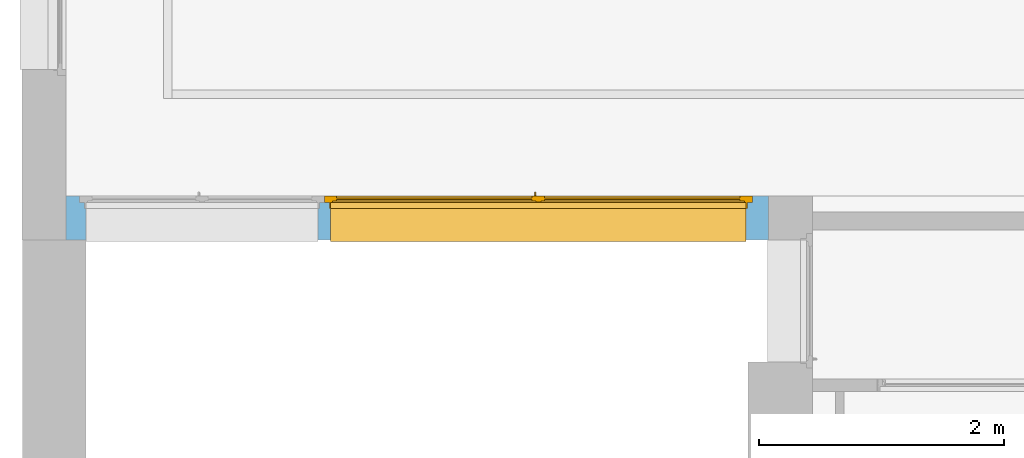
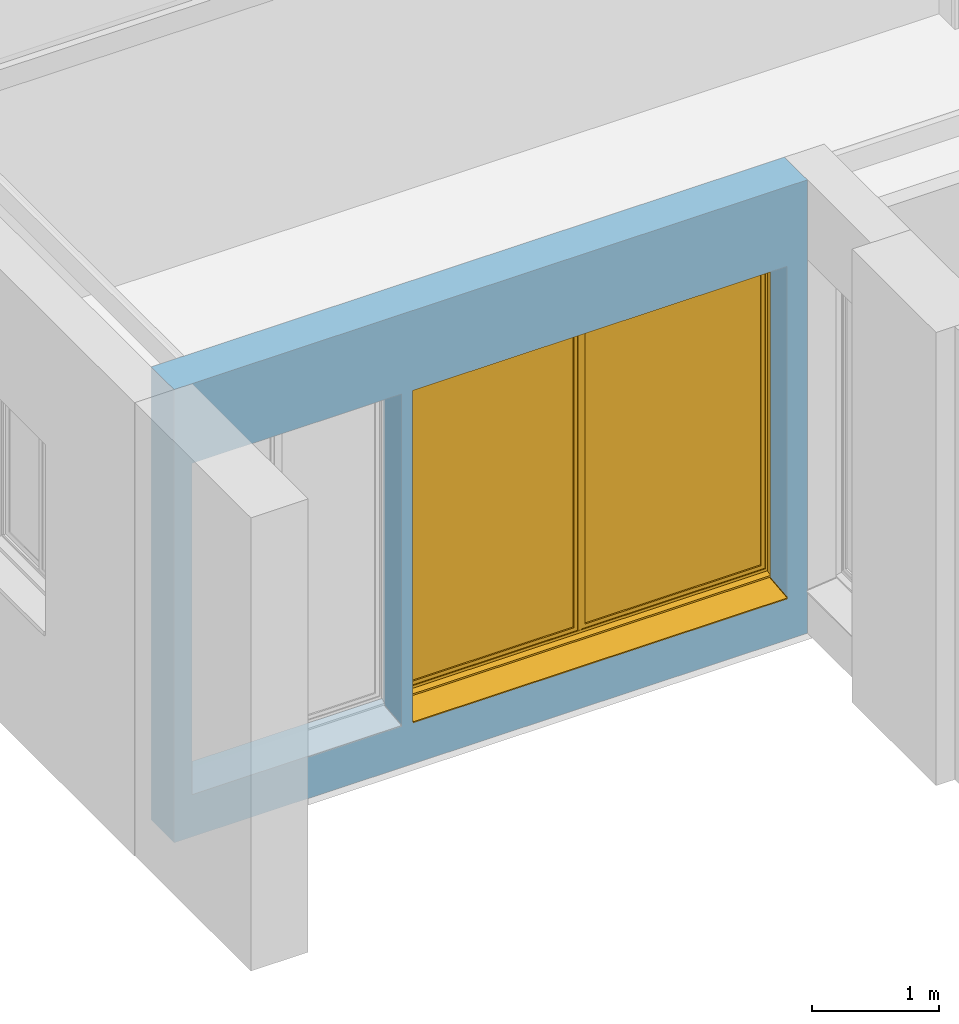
# One storey, part 21 of 32: 1 window, 2 openings, plus 1 element that does not belong to this part.
"""IFC2X3 building model written with IfcOpenShell, lengths in metres."""

import ifcopenshell
import ifcopenshell.guid

model = None  # the IFC model being written
_history = None  # IfcOwnerHistory: only IFC2X3 demands one
_inside = {}  # id of a spatial element -> (the spatial element, [elements in it])
_under = {}  # id of a project, library or spatial element -> (it, [spatial elements below it])
_declared = {}  # id of a project -> (the project, [libraries it declares])
_typed = {}  # id of a type object -> (the type object, [elements of that type])
_made_of = {}  # id of a material, layer set ... -> (it, [elements and type objects made of it])


def new_model(schema):
    """Start an empty IFC model of exactly this schema.

    Asked for "IFC4X3", IfcOpenShell would pick the latest addendum, in which some entities
    have other attributes; the version numbers below select the first issue.
    IFC2X3 requires an IfcOwnerHistory on every rooted entity: one is made here for all.
    """
    global model, _history
    if schema == "IFC4X3":
        model = ifcopenshell.file(schema_version=(4, 3, 0, 0))
    else:
        model = ifcopenshell.file(schema=schema)
    _inside.clear()
    _under.clear()
    _declared.clear()
    _typed.clear()
    _made_of.clear()
    _history = None
    if model.schema == "IFC2X3":
        org = make("IfcOrganization", Name="unknown")
        user = make(
            "IfcPersonAndOrganization",
            ThePerson=make("IfcPerson", FamilyName="unknown"),
            TheOrganization=org,
        )
        app = make(
            "IfcApplication",
            ApplicationDeveloper=org,
            Version="unknown",
            ApplicationFullName="unknown",
            ApplicationIdentifier="unknown",
        )
        _history = make(
            "IfcOwnerHistory",
            OwningUser=user,
            OwningApplication=app,
            ChangeAction="ADDED",
            CreationDate=0,
        )
    return model


def make(cls, **values):
    """One entity of the class cls with the attributes given. An attribute that is None is left unset."""
    return model.create_entity(
        cls, **{name: value for name, value in values.items() if value is not None}
    )


def entity(cls, *values):
    """Any entity or typed value of the class cls, its attributes in the order of the schema. None: left unset."""
    e = model.create_entity(cls)
    for i, value in enumerate(values):
        if value is not None:
            e[i] = value
    return e


def rooted(cls, **values):
    """An entity with a GlobalId (a new one), such as an element, a storey or a relation."""
    return make(cls, GlobalId=ifcopenshell.guid.new(), OwnerHistory=_history, **values)


def si_unit(unit_type, name, prefix=None):
    """IfcSIUnit, for example si_unit("LENGTHUNIT", "METRE", prefix="MILLI")."""
    return make("IfcSIUnit", UnitType=unit_type, Prefix=prefix, Name=name)


def converted_unit(unit_type, name, factor, base, dimensions=None, offset=None):
    """IfcConversionBasedUnit, such as the inch: factor (a typed value) times the base unit."""
    return make(
        "IfcConversionBasedUnit"
        if offset is None
        else "IfcConversionBasedUnitWithOffset",
        ConversionOffset=offset,
        Dimensions=None
        if dimensions is None
        else entity("IfcDimensionalExponents", *dimensions),
        UnitType=unit_type,
        Name=name,
        ConversionFactor=make(
            "IfcMeasureWithUnit", ValueComponent=factor, UnitComponent=base
        ),
    )


def derived_unit(unit_type, elements):
    """IfcDerivedUnit: a product of units, each with its exponent."""
    return make(
        "IfcDerivedUnit",
        Elements=[
            make("IfcDerivedUnitElement", Unit=unit, Exponent=power)
            for unit, power in elements
        ],
        UnitType=unit_type,
    )


def assignment(units):
    """IfcUnitAssignment: the units of a project."""
    return None if units is None else make("IfcUnitAssignment", Units=units)


def point(xyz):
    """IfcCartesianPoint."""
    return None if xyz is None else make("IfcCartesianPoint", Coordinates=xyz)


def direction(xyz):
    """IfcDirection."""
    return None if xyz is None else make("IfcDirection", DirectionRatios=xyz)


def frame(location, z_axis=None, x_axis=None):
    """IfcAxis2Placement3D, a coordinate frame: its origin and axes. An axis left out is left unset."""
    return make(
        "IfcAxis2Placement3D",
        Location=point(location),
        Axis=direction(z_axis),
        RefDirection=direction(x_axis),
    )


def frame_2d(location, x_axis=None):
    """IfcAxis2Placement2D, a coordinate frame in the plane: its origin and x axis."""
    return make(
        "IfcAxis2Placement2D", Location=point(location), RefDirection=direction(x_axis)
    )


def origin():
    """The frame at (0, 0, 0) with its axes left unset."""
    return frame((0.0, 0.0, 0.0))


def place(relative_to, where):
    """IfcLocalPlacement: puts the frame where relative to a parent placement (None: the world)."""
    return make(
        "IfcLocalPlacement", PlacementRelTo=relative_to, RelativePlacement=where
    )


def context(
    kind, dimensions, precision=None, world=None, true_north=None, identifier=None
):
    """IfcGeometricRepresentationContext, for example the 3D "Model" context."""
    return make(
        "IfcGeometricRepresentationContext",
        ContextIdentifier=identifier,
        ContextType=kind,
        CoordinateSpaceDimension=dimensions,
        Precision=precision,
        WorldCoordinateSystem=world,
        TrueNorth=true_north,
    )


def subcontext(parent, identifier, kind, view, scale=None):
    """IfcGeometricRepresentationSubContext, for example "Body" below "Model"."""
    return make(
        "IfcGeometricRepresentationSubContext",
        ContextIdentifier=identifier,
        ContextType=kind,
        ParentContext=parent,
        TargetScale=scale,
        TargetView=view,
    )


def project(units=None, contexts=None):
    """IfcProject with its units and contexts."""
    return rooted(
        "IfcProject",
        Name="project",
        RepresentationContexts=contexts,
        UnitsInContext=assignment(units),
    )


def spatial(cls, under=None, at=None, **own):
    """A site, building, storey or space (cls), placed at a placement, below another one or the project."""
    s = rooted(cls, ObjectPlacement=at, **own)
    if under is not None:
        _under.setdefault(under.id(), (under, []))[1].append(s)
    return s


def polyline(points):
    """IfcPolyline through the points."""
    return make("IfcPolyline", Points=[point(p) for p in points])


def circle_curve(where, radius):
    """IfcCircle in the frame where."""
    return make("IfcCircle", Position=where, Radius=radius)


def parameter(value):
    """IfcParameterValue: where a trimmed curve begins or ends, as a parameter of its basis curve."""
    return model.create_entity("IfcParameterValue", value)


def trimmed(basis, trim1, trim2, sense, master):
    """IfcTrimmedCurve: the piece of a basis curve between two trims."""
    return make(
        "IfcTrimmedCurve",
        BasisCurve=basis,
        Trim1=trim1,
        Trim2=trim2,
        SenseAgreement=sense,
        MasterRepresentation=master,
    )


def segment(curve, same_sense, transition):
    """IfcCompositeCurveSegment."""
    return make(
        "IfcCompositeCurveSegment",
        Transition=transition,
        SameSense=same_sense,
        ParentCurve=curve,
    )


def composite_curve(segments, self_intersect=None):
    """IfcCompositeCurve: segments joined end to end."""
    return make("IfcCompositeCurve", Segments=segments, SelfIntersect=self_intersect)


def profile(cls, at=None, kind="AREA", **sizes):
    """A parametric profile (cls). Its sizes go by their IFC names, for example OverallWidth=200.0."""
    return make(cls, ProfileType=kind, Position=at, **sizes)


def rectangle(**sizes):
    """IfcRectangleProfileDef."""
    return profile("IfcRectangleProfileDef", **sizes)


def outline(outer, holes=None, kind="AREA"):
    """IfcArbitraryClosedProfileDef: a profile drawn as a closed curve; with holes, ...WithVoids."""
    if holes is None:
        return make("IfcArbitraryClosedProfileDef", ProfileType=kind, OuterCurve=outer)
    return make(
        "IfcArbitraryProfileDefWithVoids",
        ProfileType=kind,
        OuterCurve=outer,
        InnerCurves=holes,
    )


def extrude(swept, where, along, depth):
    """IfcExtrudedAreaSolid: the profile swept, set in the frame where, extruded along a direction by depth."""
    return make(
        "IfcExtrudedAreaSolid",
        SweptArea=swept,
        Position=where,
        ExtrudedDirection=direction(along),
        Depth=depth,
    )


def faces_of(points, faces, orient=None, outer=None):
    """IfcFace entities. A face is a list of loops; a loop is a list of indices into points, from 0.

    orient and outer hold one flag for each loop. By default every Orientation is true, the
    first loop of a face is its IfcFaceOuterBound and the others are IfcFaceBound.
    """
    made = []
    for i, loops in enumerate(faces):
        bounds = []
        for j, loop in enumerate(loops):
            is_outer = j == 0 if outer is None else outer[i][j]
            bounds.append(
                make(
                    "IfcFaceOuterBound" if is_outer else "IfcFaceBound",
                    Bound=make("IfcPolyLoop", Polygon=[points[k] for k in loop]),
                    Orientation=True if orient is None else orient[i][j],
                )
            )
        made.append(make("IfcFace", Bounds=bounds))
    return made


def faceted_brep(points, faces, orient=None, outer=None, voids=None):
    """IfcFacetedBrep: a solid bounded by flat faces; with voids (closed shells), ...WithVoids."""
    shared = [point(p) for p in points]
    hull = make("IfcClosedShell", CfsFaces=faces_of(shared, faces, orient, outer))
    if voids is None:
        return make("IfcFacetedBrep", Outer=hull)
    return make(
        "IfcFacetedBrepWithVoids",
        Outer=hull,
        Voids=[
            make(cls, CfsFaces=faces_of(shared, fs, o, b)) for cls, fs, o, b in voids
        ],
    )


def shape(context_of_items, identifier, shape_type, items):
    """IfcShapeRepresentation: the items that make up one representation, for example the "Body"."""
    return make(
        "IfcShapeRepresentation",
        ContextOfItems=context_of_items,
        RepresentationIdentifier=identifier,
        RepresentationType=shape_type,
        Items=items,
    )


def source(mapping_origin, context_of_items, identifier, shape_type, items):
    """IfcRepresentationMap: a shape defined once, which mapped items show again and again."""
    return make(
        "IfcRepresentationMap",
        MappingOrigin=mapping_origin,
        MappedRepresentation=shape(context_of_items, identifier, shape_type, items),
    )


def transform(
    local_origin,
    x_axis=None,
    y_axis=None,
    z_axis=None,
    scale=None,
    scale2=None,
    scale3=None,
    uniform=True,
):
    """IfcCartesianTransformationOperator3D, or its non-uniform kind. x_axis, y_axis, z_axis: its Axis1, 2, 3."""
    if uniform:
        return make(
            "IfcCartesianTransformationOperator3D",
            Axis1=direction(x_axis),
            Axis2=direction(y_axis),
            LocalOrigin=point(local_origin),
            Scale=scale,
            Axis3=direction(z_axis),
        )
    return make(
        "IfcCartesianTransformationOperator3DnonUniform",
        Axis1=direction(x_axis),
        Axis2=direction(y_axis),
        LocalOrigin=point(local_origin),
        Scale=scale,
        Axis3=direction(z_axis),
        Scale2=scale2,
        Scale3=scale3,
    )


def mapped(mapping_source, mapping_target):
    """IfcMappedItem: shows the shape of a source again, moved by a transform."""
    return make(
        "IfcMappedItem", MappingSource=mapping_source, MappingTarget=mapping_target
    )


def material(Name=None, Category=None):
    """IfcMaterial."""
    return make("IfcMaterial", Name=Name, Category=Category)


def material_list(materials):
    """IfcMaterialList."""
    return make("IfcMaterialList", Materials=materials)


def layer(
    of_material, thickness, ventilated=None, Name=None, Category=None, Priority=None
):
    """IfcMaterialLayer: one layer of a wall or slab, of a material (None: an air gap)."""
    return make(
        "IfcMaterialLayer",
        Material=of_material,
        LayerThickness=thickness,
        IsVentilated=ventilated,
        Name=Name,
        Category=Category,
        Priority=Priority,
    )


def layer_set(layers, Name=None):
    """IfcMaterialLayerSet."""
    return make("IfcMaterialLayerSet", MaterialLayers=layers, LayerSetName=Name)


def layer_usage(for_layer_set, set_direction, sense, offset, extent=None):
    """IfcMaterialLayerSetUsage: how a layer set lies in its element."""
    return make(
        "IfcMaterialLayerSetUsage",
        ForLayerSet=for_layer_set,
        LayerSetDirection=set_direction,
        DirectionSense=sense,
        OffsetFromReferenceLine=offset,
        ReferenceExtent=extent,
    )


def made_of(thing, what):
    """Note that an element or type object is made of a material, layer set ...; save() writes the relation."""
    if what is not None:
        _made_of.setdefault(what.id(), (what, []))[1].append(thing)
    return thing


def type_object(cls, material=None, **own):
    """A type object (cls), such as IfcWallType, which elements share."""
    return made_of(rooted(cls, **own), material)


def type_shapes(of_type, sources):
    """Give a type object the sources (RepresentationMaps) that its elements show as mapped items."""
    of_type.RepresentationMaps = sources


def element(
    cls,
    number,
    at=None,
    inside=None,
    cuts=None,
    type_object=None,
    material=None,
    context=None,
    identifier="Body",
    shape_type=None,
    held_by="IfcProductDefinitionShape",
    body=None,
    shapes=None,
    **own,
):
    """One element of the class cls, such as IfcWall. Its Tag is "e" and its number.

    at: its placement. inside: the storey or other place that contains it. cuts: it is an
    opening in that element (IfcRelVoidsElement). A single representation is given by context,
    identifier, shape_type and body (its items); several are given by shapes. held_by: the class
    of the entity that holds the representations. save() writes the other relations.
    """
    e = rooted(cls, Tag="e%d" % number, ObjectPlacement=at, **own)
    if body is not None:
        shapes = [shape(context, identifier, shape_type, body)]
    if shapes is not None:
        e.Representation = make(held_by, Representations=shapes)
    if inside is not None:
        _inside.setdefault(inside.id(), (inside, []))[1].append(e)
    if cuts is not None:
        rooted(
            "IfcRelVoidsElement", RelatingBuildingElement=cuts, RelatedOpeningElement=e
        )
    if type_object is not None:
        _typed.setdefault(type_object.id(), (type_object, []))[1].append(e)
    return made_of(e, material)


def fill(opening, filler):
    """IfcRelFillsElement: the door or window that sits in an opening."""
    return rooted(
        "IfcRelFillsElement",
        RelatingOpeningElement=opening,
        RelatedBuildingElement=filler,
    )


def aggregate(whole, parts):
    """IfcRelAggregates: a whole, such as a stair, and the parts it consists of."""
    return rooted("IfcRelAggregates", RelatingObject=whole, RelatedObjects=parts)


def save(model, path):
    """Write the relations noted so far, then the file.

    IfcRelAggregates (storeys below a building ...), IfcRelContainedInSpatialStructure (elements
    in a storey), IfcRelDefinesByType, IfcRelAssociatesMaterial and IfcRelDeclares: one each for
    every whole, place, type object, material and project.
    """
    for whole, parts in _under.values():
        aggregate(whole, parts)
    for where, things in _inside.values():
        rooted(
            "IfcRelContainedInSpatialStructure",
            RelatedElements=things,
            RelatingStructure=where,
        )
    for kind, things in _typed.values():
        rooted("IfcRelDefinesByType", RelatedObjects=things, RelatingType=kind)
    for what, things in _made_of.values():
        rooted("IfcRelAssociatesMaterial", RelatedObjects=things, RelatingMaterial=what)
    for by, libraries in _declared.values():
        rooted("IfcRelDeclares", RelatingContext=by, RelatedDefinitions=libraries)
    model.write(path)


model = new_model("IFC2X3")

# Units and contexts
model_context = context("Model", 3, precision=1e-05, world=origin(), true_north=direction((6.12303176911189e-17, 1.0)))
plan_context = context("Plan", 3, precision=1e-05, world=origin(), true_north=direction((6.12303176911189e-17, 1.0)))
body_context = subcontext(model_context, "Body", "Model", "MODEL_VIEW")
ifc_project = project(units=[si_unit("LENGTHUNIT", "METRE"), si_unit("AREAUNIT", "SQUARE_METRE"), si_unit("VOLUMEUNIT", "CUBIC_METRE"), converted_unit("PLANEANGLEUNIT", "DEGREE", entity("IfcRatioMeasure", 0.0174532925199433), si_unit("PLANEANGLEUNIT", "RADIAN"), dimensions=[0, 0, 0, 0, 0, 0, 0]), si_unit("MASSUNIT", "GRAM", prefix="KILO"), derived_unit("MASSDENSITYUNIT", [(si_unit("MASSUNIT", "GRAM", prefix="KILO"), 1), (si_unit("LENGTHUNIT", "METRE"), -3)]), derived_unit("MOMENTOFINERTIAUNIT", [(si_unit("LENGTHUNIT", "METRE"), 4)]), si_unit("TIMEUNIT", "SECOND"), si_unit("FREQUENCYUNIT", "HERTZ"), si_unit("THERMODYNAMICTEMPERATUREUNIT", "DEGREE_CELSIUS"), derived_unit("THERMALTRANSMITTANCEUNIT", [(si_unit("MASSUNIT", "GRAM", prefix="KILO"), 1), (si_unit("THERMODYNAMICTEMPERATUREUNIT", "KELVIN"), -1), (si_unit("TIMEUNIT", "SECOND"), -3)]), derived_unit("VOLUMETRICFLOWRATEUNIT", [(si_unit("LENGTHUNIT", "METRE"), 3), (si_unit("TIMEUNIT", "SECOND"), -1)]), si_unit("ELECTRICCURRENTUNIT", "AMPERE"), si_unit("ELECTRICVOLTAGEUNIT", "VOLT"), si_unit("POWERUNIT", "WATT"), si_unit("FORCEUNIT", "NEWTON", prefix="KILO"), si_unit("ILLUMINANCEUNIT", "LUX"), si_unit("LUMINOUSFLUXUNIT", "LUMEN"), si_unit("LUMINOUSINTENSITYUNIT", "CANDELA"), derived_unit("USERDEFINED", [(si_unit("MASSUNIT", "GRAM", prefix="KILO"), -1), (si_unit("LENGTHUNIT", "METRE"), -2), (si_unit("TIMEUNIT", "SECOND"), 3), (si_unit("LUMINOUSFLUXUNIT", "LUMEN"), 1)]), derived_unit("LINEARVELOCITYUNIT", [(si_unit("LENGTHUNIT", "METRE"), 1), (si_unit("TIMEUNIT", "SECOND"), -1)]), si_unit("PRESSUREUNIT", "PASCAL"), derived_unit("USERDEFINED", [(si_unit("LENGTHUNIT", "METRE"), -2), (si_unit("MASSUNIT", "GRAM", prefix="KILO"), 1), (si_unit("TIMEUNIT", "SECOND"), -2)]), derived_unit("LINEARFORCEUNIT", [(si_unit("MASSUNIT", "GRAM", prefix="KILO"), 1), (si_unit("LENGTHUNIT", "METRE"), 1), (si_unit("TIMEUNIT", "SECOND"), -2), (si_unit("LENGTHUNIT", "METRE"), -1)]), derived_unit("PLANARFORCEUNIT", [(si_unit("MASSUNIT", "GRAM", prefix="KILO"), 1), (si_unit("LENGTHUNIT", "METRE"), 1), (si_unit("TIMEUNIT", "SECOND"), -2), (si_unit("LENGTHUNIT", "METRE"), -2)])], contexts=[model_context, plan_context])

# Site, building, storey
site_placement = place(None, origin())
site = spatial("IfcSite", under=ifc_project, at=site_placement, Name="Default", CompositionType="ELEMENT")
building_placement = place(site_placement, origin())
building = spatial("IfcBuilding", under=site, at=building_placement, CompositionType="ELEMENT")
storey_placement = place(building_placement, origin())
storey = spatial("IfcBuildingStorey", under=building, at=storey_placement, Name="0 Mairie RDC 0.00", CompositionType="ELEMENT", Elevation=-1.94916083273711e-14)

# Wall, openings, window
ifc_material_1 = material(Name="Maçonnerie - Enduit")
ifc_layer_1 = layer(ifc_material_1, 0.02)
ifc_material_2 = material(Name="Béton, coulé sur place")
ifc_layer_2 = layer(ifc_material_2, 0.2)
ifc_material_3 = material(Name="Vide")
ifc_layer_3 = layer(ifc_material_3, 0.01)
ifc_material_4 = material(Name="Maçonnerie - Isolant")
ifc_layer_4 = layer(ifc_material_4, 0.12)
ifc_material_5 = material(Name="Plâtre")
ifc_layer_5 = layer(ifc_material_5, 0.01)
ifc_layer_set = layer_set([ifc_layer_1, ifc_layer_2, ifc_layer_3, ifc_layer_4, ifc_layer_5], Name="Mur de base:A Enduit 2 + Béton 20 + vide 1 +  Doublage 13")
ifc_layer_usage = layer_usage(ifc_layer_set, "AXIS2", "POSITIVE", -0.18)
wall_type = type_object("IfcWallType", Name="Murs : Mur de base : A Enduit 2 + Béton 20 + vide 1 +  Doublage 13", PredefinedType="STANDARD", material=ifc_layer_set)
wall_placement = place(storey_placement, frame((-29.8870149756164, -8.13302112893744, -0.400000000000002)))
wall = element("IfcWallStandardCase", 1, at=wall_placement, inside=storey, type_object=wall_type, material=ifc_layer_usage, Name="Murs : Mur de base : A Enduit 2 + Béton 20 + vide 1 +  Doublage 13", ObjectType="Mur de base:A Enduit 2 + Béton 20 + vide 1 +  Doublage 13", context=body_context, shape_type="SweptSolid", body=[
    extrude(rectangle(XDim=5.74873466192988, YDim=0.36, at=frame_2d((2.87436733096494, -4.44089209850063e-16), x_axis=(-1.0, 0.0))), origin(), (0.0, 0.0, 1.0), 4.35000000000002),
])
opening_1_placement = place(wall_placement, frame((0.113531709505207, -0.500000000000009, 0.400000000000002)))
element("IfcOpeningElement", 2, at=opening_1_placement, cuts=wall, Name="Murs : Mur de base : A Enduit 2 + Béton 20 + vide 1 +  Doublage 13", ObjectType="Opening", context=body_context, shape_type="Brep", body=[
    faceted_brep([(1.95, 0.599999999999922, 0.035), (1.95, 0.579999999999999, 0.035), (1.95, 0.579999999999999, 3.185), (1.95, 0.0, 3.185), (1.95, 0.0, 0.0), (1.95, 0.266997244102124, 0.0), (0.0500000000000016, 1.0, 0.0350000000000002), (0.0500000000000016, 0.680000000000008, 0.0350000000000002), (0.0500000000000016, 0.680000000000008, 3.185), (0.0500000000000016, 1.0, 3.185), (1.95, 1.0, 0.0350000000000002), (1.95, 0.680000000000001, 0.0350000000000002), (2.0, 0.680000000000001, 0.0350000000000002), (2.0, 0.630000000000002, 0.0350000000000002), (1.96, 0.630000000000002, 0.0350000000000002), (1.96, 0.579999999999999, 0.0350000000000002), (0.0499999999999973, 0.599999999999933, 0.035), (0.0500000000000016, 0.580000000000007, 0.0350000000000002), (0.0400000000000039, 0.580000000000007, 0.0350000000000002), (0.0400000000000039, 0.630000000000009, 0.0350000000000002), (0.0, 0.630000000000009, 0.0350000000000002), (0.0, 0.680000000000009, 0.0350000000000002), (1.95, 1.0, 3.185), (0.0499999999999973, 0.580000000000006, 3.185), (0.0500000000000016, 0.0, 3.185), (0.0500000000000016, 0.0, 0.0), (0.0500000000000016, 0.266997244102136, 0.0), (2.0, 0.680000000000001, 3.235), (2.0, 0.630000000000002, 3.235), (0.0, 0.630000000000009, 3.235), (0.0399999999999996, 0.630000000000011, 3.195), (1.96, 0.630000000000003, 3.195), (1.96, 0.579999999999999, 3.195), (0.0399999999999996, 0.580000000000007, 3.195), (1.95, 0.680000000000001, 3.185), (0.0, 0.680000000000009, 3.235)], [[[0, 1, 2, 3, 4, 5]], [[6, 7, 8, 9]], [[10, 11, 12, 13, 14, 15, 1, 0, 16, 17, 18, 19, 20, 21, 7, 6]], [[10, 6, 9, 22]], [[3, 2, 23, 24]], [[3, 24, 25, 4]], [[4, 25, 26, 5]], [[5, 26, 16, 0]], [[12, 27, 28, 13]], [[13, 28, 29, 20, 19, 30, 31, 14]], [[14, 31, 32, 15]], [[15, 32, 33, 18, 17, 23, 2, 1]], [[11, 34, 8, 7, 21, 35, 27, 12]], [[27, 35, 29, 28]], [[30, 33, 32, 31]], [[29, 35, 21, 20]], [[19, 18, 33, 30]], [[9, 8, 34, 22]], [[24, 23, 17, 16, 26, 25]], [[22, 34, 11, 10]]]),
])
opening_2_placement = place(wall_placement, frame((2.11440790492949, -0.500000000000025, 0.400000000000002)))
opening_2 = element("IfcOpeningElement", 3, at=opening_2_placement, cuts=wall, Name="Murs : Mur de base : A Enduit 2 + Béton 20 + vide 1 +  Doublage 13", ObjectType="Opening", context=body_context, shape_type="Brep", body=[
    faceted_brep([(3.45, 0.599999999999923, 0.035), (3.45, 0.580000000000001, 0.035), (3.45, 0.580000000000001, 3.185), (3.45, 0.0, 3.185), (3.45, 0.0, 0.0), (3.45, 0.266997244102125, 0.0), (0.0500000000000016, 1.0, 0.0350000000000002), (0.0500000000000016, 0.680000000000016, 0.0350000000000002), (0.0500000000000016, 0.680000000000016, 3.185), (0.0500000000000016, 1.0, 3.185), (3.45, 1.0, 0.0350000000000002), (3.45, 0.680000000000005, 0.0350000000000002), (3.5, 0.680000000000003, 0.0350000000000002), (3.5, 0.630000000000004, 0.0350000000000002), (3.46, 0.630000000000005, 0.0350000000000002), (3.46, 0.580000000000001, 0.0350000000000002), (0.0499999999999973, 0.599999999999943, 0.035), (0.0500000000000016, 0.580000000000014, 0.0350000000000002), (0.0399999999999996, 0.580000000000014, 0.0350000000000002), (0.0399999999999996, 0.630000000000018, 0.0350000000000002), (0.0, 0.630000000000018, 0.0350000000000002), (0.0, 0.680000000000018, 0.0350000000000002), (3.45, 1.0, 3.185), (0.0499999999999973, 0.580000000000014, 3.185), (0.0500000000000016, 0.0, 3.185), (0.0500000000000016, 0.0, 0.0), (0.0500000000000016, 0.266997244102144, 0.0), (3.5, 0.680000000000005, 3.235), (3.5, 0.630000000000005, 3.235), (0.0, 0.630000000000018, 3.235), (0.0400000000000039, 0.630000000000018, 3.195), (3.46, 0.630000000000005, 3.195), (3.46, 0.580000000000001, 3.195), (0.0400000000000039, 0.580000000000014, 3.195), (3.45, 0.680000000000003, 3.185), (0.0, 0.680000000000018, 3.235)], [[[0, 1, 2, 3, 4, 5]], [[6, 7, 8, 9]], [[10, 11, 12, 13, 14, 15, 1, 0, 16, 17, 18, 19, 20, 21, 7, 6]], [[10, 6, 9, 22]], [[3, 2, 23, 24]], [[3, 24, 25, 4]], [[4, 25, 26, 5]], [[5, 26, 16, 0]], [[12, 27, 28, 13]], [[13, 28, 29, 20, 19, 30, 31, 14]], [[14, 31, 32, 15]], [[15, 32, 33, 18, 17, 23, 2, 1]], [[11, 34, 8, 7, 21, 35, 27, 12]], [[27, 35, 29, 28]], [[30, 33, 32, 31]], [[29, 35, 21, 20]], [[19, 18, 33, 30]], [[9, 8, 34, 22]], [[24, 23, 17, 16, 26, 25]], [[22, 34, 11, 10]]]),
])
ifc_material_6 = material(Name="PVC Blanc")
ifc_material_7 = material(Name="Fenêtre - Vitrage")
ifc_material_list = material_list([ifc_material_6, ifc_material_7])
window_style = type_object("IfcWindowStyle", Name="Fenêtres : PF 2 Vantaux - Droits : 3.40 x 3.15", ConstructionType="NOTDEFINED", OperationType="DOUBLE_PANEL_VERTICAL", ParameterTakesPrecedence=False, Sizeable=False, material=ifc_material_list)
shared_shape = source(origin(), body_context, "Body", "SolidModel", [
    extrude(outline(polyline([(-0.0233345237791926, -0.0332340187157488), (-0.0162634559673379, -0.0332340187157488), (0.0332340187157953, 0.0162634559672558), (0.0332340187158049, 0.0233345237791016), (0.0233345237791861, 0.0332340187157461), (0.0162634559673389, 0.0332340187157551), (-0.0332340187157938, -0.0162634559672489), (-0.0332340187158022, -0.0233345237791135), (-0.0233345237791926, -0.0332340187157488)])), frame((1.775, 0.314000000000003, 1.1), z_axis=(0.0, 1.0, 0.0), x_axis=(0.707106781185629, 0.0, -0.707106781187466)), (0.0, 0.0, 1.0), 0.00599999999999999),
    extrude(outline(polyline([(-0.145647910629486, 0.00157280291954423), (-0.14680589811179, -0.00944471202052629), (-0.141778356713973, -0.0094447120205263), (-0.141169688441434, -0.003653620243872), (0.145429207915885, -0.00365362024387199), (0.146997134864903, 0.0112642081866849), (0.142024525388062, 0.0117868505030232), (0.140950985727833, 0.00157280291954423), (-0.145647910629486, 0.00157280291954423)])), frame((0.0500000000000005, 0.5450144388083, 0.0234321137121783), z_axis=(-1.0, 0.0, 0.0), x_axis=(0.0, -0.994521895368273, 0.104528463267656)), (0.0, 0.0, -1.0), 3.4),
    extrude(outline(composite_curve([segment(polyline([(-0.0143545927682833, -0.11472792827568), (-0.0129286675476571, -0.11472792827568)]), True, "CONTINUOUS"), segment(trimmed(circle_curve(frame_2d((-0.0129286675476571, -0.11072792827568), x_axis=(0.0, 1.0)), 0.004), [parameter(180.0)], [parameter(263.999999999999)], True, "PARAMETER"), True, "CONTINUOUS"), segment(polyline([(-0.00895057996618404, -0.111146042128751), (0.020630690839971, 0.170300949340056)]), True, "CONTINUOUS"), segment(polyline([(0.020630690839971, 0.170300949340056), (0.0156031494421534, 0.170300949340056)]), True, "CONTINUOUS"), segment(polyline([(0.0156031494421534, 0.170300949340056), (-0.0143545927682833, -0.11472792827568)]), True, "CONTINUOUS")], self_intersect=False)), frame((0.0500000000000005, 0.575300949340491, 0.0241265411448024), z_axis=(1.0, 0.0, 0.0), x_axis=(0.0, 0.0, 1.0)), (0.0, 0.0, 1.0), 0.00499999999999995),
    extrude(outline(composite_curve([segment(polyline([(-0.0143545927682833, -0.11472792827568), (-0.0129286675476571, -0.11472792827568)]), True, "CONTINUOUS"), segment(trimmed(circle_curve(frame_2d((-0.0129286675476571, -0.11072792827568), x_axis=(0.0, 1.0)), 0.004), [parameter(180.0)], [parameter(264.0)], True, "PARAMETER"), True, "CONTINUOUS"), segment(polyline([(-0.00895057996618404, -0.111146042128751), (0.020630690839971, 0.170300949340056)]), True, "CONTINUOUS"), segment(polyline([(0.020630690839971, 0.170300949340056), (0.0156031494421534, 0.170300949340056)]), True, "CONTINUOUS"), segment(polyline([(0.0156031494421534, 0.170300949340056), (-0.0143545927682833, -0.11472792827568)]), True, "CONTINUOUS")], self_intersect=False)), frame((3.445, 0.575300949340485, 0.0241265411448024), z_axis=(1.0, 0.0, 0.0), x_axis=(0.0, 0.0, 1.0)), (0.0, 0.0, 1.0), 0.00499999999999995),
    extrude(outline(polyline([(-0.850000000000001, -1.55), (0.850000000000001, -1.55), (0.850000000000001, 1.55), (-0.850000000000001, 1.55), (-0.850000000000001, -1.55)]), holes=[polyline([(0.800000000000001, -1.5), (-0.800000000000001, -1.5), (-0.800000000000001, 1.5), (0.800000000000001, 1.5), (0.800000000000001, -1.5)])]), frame((0.899999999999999, 0.320000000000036, 1.635), z_axis=(0.0, 1.0, 0.0), x_axis=(-1.0, 0.0, 0.0)), (0.0, 0.0, 1.0), 0.0399999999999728),
    extrude(rectangle(XDim=0.012, YDim=1.6, at=frame_2d((-1.69135538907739e-17, 0.0), x_axis=(1.0, 0.0))), frame((2.6, 0.339999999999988, 0.135), z_axis=(0.0, 0.0, 1.0), x_axis=(0.0, -1.0, 0.0)), (0.0, 0.0, 1.0), 3.0),
    extrude(rectangle(XDim=0.012, YDim=1.6, at=frame_2d((-1.69135538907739e-17, 0.0), x_axis=(1.0, 0.0))), frame((0.899999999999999, 0.339999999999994, 0.135), z_axis=(0.0, 0.0, 1.0), x_axis=(0.0, -1.0, 0.0)), (0.0, 0.0, 1.0), 3.0),
    extrude(outline(polyline([(-0.849999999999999, -1.55), (0.849999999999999, -1.55), (0.849999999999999, 1.55), (-0.849999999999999, 1.55), (-0.849999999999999, -1.55)]), holes=[polyline([(0.799999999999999, -1.5), (-0.799999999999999, -1.5), (-0.799999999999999, 1.5), (0.799999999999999, 1.5), (0.799999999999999, -1.5)])]), frame((2.6, 0.319999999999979, 1.635), z_axis=(0.0, 1.0, 0.0), x_axis=(-1.0, 0.0, 0.0)), (0.0, 0.0, 1.0), 0.0399999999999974),
    extrude(outline(polyline([(-1.5775, -1.71), (1.5825, -1.71), (1.5825, 1.71), (-1.5775, 1.71), (-1.5775, 1.7), (1.5725, 1.7), (1.5725, -1.7), (-1.5775, -1.7), (-1.5775, -1.71)])), frame((1.75, 0.370000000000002, 1.6125), z_axis=(0.0, 1.0, 0.0), x_axis=(0.0, 0.0, 1.0)), (0.0, 0.0, 1.0), 0.0500000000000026),
    extrude(rectangle(XDim=0.0400000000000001, YDim=0.00799999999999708, at=frame_2d((0.0, 8.23993651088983e-18), x_axis=(1.0, 0.0))), frame((1.75, 0.36399999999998, 0.0999999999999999), z_axis=(0.0, 0.0, 1.0), x_axis=(-1.0, 0.0, 0.0)), (0.0, 0.0, 1.0), 3.07),
    faceted_brep([(1.78064600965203, 0.313999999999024, 1.12203392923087), (1.78203392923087, 0.313999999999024, 1.12064600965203), (1.78203392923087, 0.313999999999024, 1.10933230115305), (1.78066769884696, 0.313999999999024, 1.10796607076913), (1.76933230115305, 0.313999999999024, 1.10796607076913), (1.76796607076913, 0.313999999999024, 1.10933230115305), (1.76796607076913, 0.313999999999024, 1.12064600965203), (1.76935399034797, 0.313999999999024, 1.12203392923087), (1.78064600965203, 0.301086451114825, 1.12203392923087), (1.78203392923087, 0.301661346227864, 1.12064600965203), (1.78203392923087, 0.288353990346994, 1.10733865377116), (1.78203392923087, 0.288353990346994, 1.02), (1.78203392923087, 0.299667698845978, 1.02), (1.78203392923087, 0.299667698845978, 1.10265236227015), (1.78203392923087, 0.306347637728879, 1.10933230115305), (1.78066769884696, 0.306913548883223, 1.10796607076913), (1.76933230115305, 0.306913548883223, 1.10796607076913), (1.76796607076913, 0.306347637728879, 1.10933230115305), (1.76796607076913, 0.299667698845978, 1.10265236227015), (1.76796607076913, 0.299667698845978, 1.02), (1.76796607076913, 0.288353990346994, 1.02), (1.76796607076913, 0.288353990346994, 1.10733865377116), (1.76796607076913, 0.301661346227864, 1.12064600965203), (1.76935399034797, 0.301086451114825, 1.12203392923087), (1.78064600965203, 0.286966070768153, 1.1079135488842), (1.78066769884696, 0.301033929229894, 1.1020864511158), (1.76933230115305, 0.301033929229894, 1.1020864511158), (1.76935399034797, 0.286966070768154, 1.1079135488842), (1.78064600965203, 0.286966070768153, 1.02), (1.76935399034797, 0.286966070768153, 1.02), (1.76933230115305, 0.301033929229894, 1.02), (1.78066769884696, 0.301033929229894, 1.02)], [[[0, 1, 2, 3, 4, 5, 6, 7]], [[1, 0, 8, 9]], [[2, 1, 9, 10, 11, 12, 13, 14]], [[3, 2, 14, 15]], [[4, 3, 15, 16]], [[5, 4, 16, 17]], [[6, 5, 17, 18, 19, 20, 21, 22]], [[7, 6, 22, 23]], [[0, 7, 23, 8]], [[9, 8, 24, 10]], [[15, 14, 13, 25]], [[16, 15, 25, 26]], [[17, 16, 26, 18]], [[23, 22, 21, 27]], [[8, 23, 27, 24]], [[28, 29, 20, 19, 30, 31, 12, 11]], [[10, 24, 28, 11]], [[25, 13, 12, 31]], [[26, 25, 31, 30]], [[18, 26, 30, 19]], [[27, 21, 20, 29]], [[24, 27, 29, 28]]]),
    faceted_brep([(0.0, 0.320000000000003, 0.0350000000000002), (0.0, 0.370000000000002, 0.0350000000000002), (0.0499999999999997, 0.370000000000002, 0.0350000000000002), (0.0499999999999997, 0.39999999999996, 0.0350000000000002), (3.45, 0.399999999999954, 0.0350000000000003), (3.45, 0.370000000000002, 0.0350000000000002), (3.5, 0.370000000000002, 0.0350000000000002), (3.5, 0.320000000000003, 0.0350000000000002), (0.0, 0.320000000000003, 3.235), (0.0, 0.370000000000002, 3.235), (3.5, 0.370000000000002, 3.235), (3.45, 0.370000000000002, 0.0743761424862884), (0.0499999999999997, 0.370000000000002, 0.0743761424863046), (0.0649999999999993, 0.370000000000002, 3.17), (0.0649999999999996, 0.370000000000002, 0.0999999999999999), (3.435, 0.370000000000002, 0.1), (3.435, 0.370000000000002, 3.17), (0.05, 0.419999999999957, 0.060978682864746), (0.05, 0.419999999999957, 0.0450000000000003), (0.05, 0.409999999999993, 0.0450000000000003), (0.05, 0.409999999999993, 0.050000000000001), (0.0499999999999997, 0.39999999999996, 0.050000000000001), (3.45, 0.399999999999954, 0.050000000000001), (3.45, 0.409999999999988, 0.050000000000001), (3.45, 0.409999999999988, 0.0450000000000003), (3.45, 0.419999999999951, 0.0450000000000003), (3.45, 0.419999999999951, 0.060978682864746), (3.5, 0.320000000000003, 3.235), (3.45, 0.320000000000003, 3.185), (3.45, 0.32, 0.0850000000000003), (0.0499999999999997, 0.320000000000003, 0.0850000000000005), (0.0499999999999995, 0.320000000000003, 3.185), (0.0649999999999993, 0.360000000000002, 3.17), (0.0649999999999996, 0.360000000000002, 0.0999999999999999), (3.435, 0.360000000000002, 0.1), (3.435, 0.360000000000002, 3.17), (3.45, 0.360000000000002, 3.185), (0.0499999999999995, 0.360000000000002, 3.185), (0.0499999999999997, 0.360000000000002, 0.0850000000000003), (3.45, 0.360000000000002, 0.0850000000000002)], [[[0, 1, 2, 3, 4, 5, 6, 7]], [[1, 0, 8, 9]], [[1, 9, 10, 6, 5, 11, 12, 2], [13, 14, 15, 16]], [[12, 17, 18, 19, 20, 21, 3, 2]], [[3, 21, 22, 4]], [[4, 22, 23, 24, 25, 26, 11, 5]], [[6, 10, 27, 7]], [[0, 7, 27, 8], [28, 29, 30, 31]], [[13, 32, 33, 14]], [[33, 34, 15, 14]], [[35, 16, 15, 34]], [[17, 12, 11, 26]], [[32, 35, 34, 33], [36, 37, 38, 39]], [[38, 37, 31, 30]], [[30, 29, 39, 38]], [[28, 36, 39, 29]], [[18, 17, 26, 25]], [[19, 18, 25, 24]], [[20, 19, 24, 23]], [[21, 20, 23, 22]], [[13, 16, 35, 32]], [[10, 9, 8, 27]], [[37, 36, 28, 31]]], outer=[[True], [True], [True, False], [True], [True], [True], [True], [True, False], [True], [True], [True], [True], [False, True], [True], [True], [True], [True], [True], [True], [True], [True], [True], [True]]),
])
type_shapes(window_style, [shared_shape])
window_placement = place(opening_2_placement, frame((3.5, 1.0, 0.0), z_axis=(0.0, 0.0, 1.0), x_axis=(-1.0, 0.0, 0.0)))
window = element("IfcWindow", 4, at=window_placement, inside=storey, type_object=window_style, material=ifc_material_6, Name="Fenêtres : PF 2 Vantaux - Droits : 3.40 x 3.15", ObjectType="PF 2 Vantaux - Droits:3.40 x 3.15", OverallHeight=3.265, OverallWidth=3.5, context=body_context, shape_type="MappedRepresentation", body=[
    mapped(shared_shape, transform((0.0, 0.0, 0.0), scale=1.0)),
])
fill(opening_2, window)

save(model, "model.ifc")
